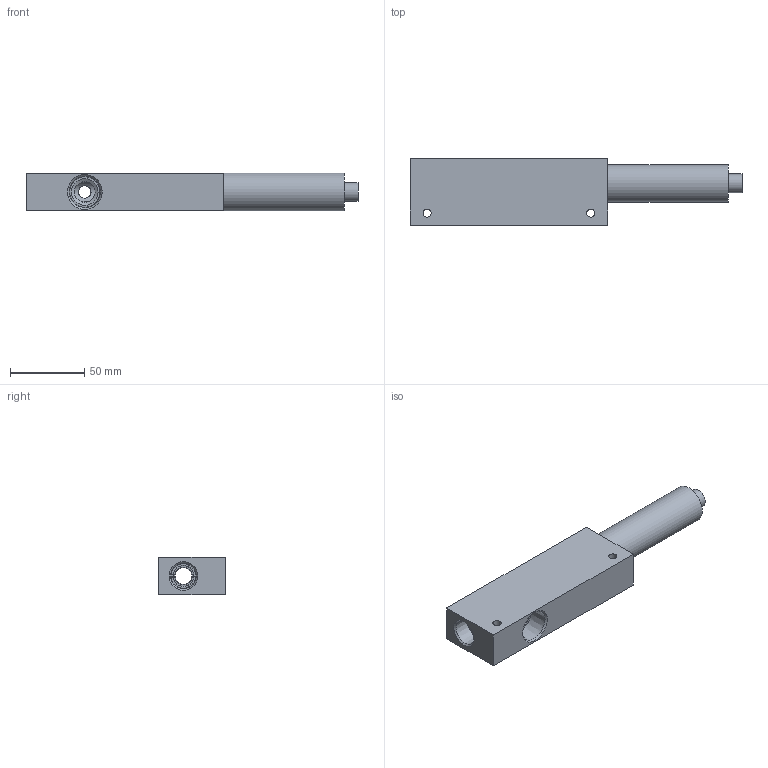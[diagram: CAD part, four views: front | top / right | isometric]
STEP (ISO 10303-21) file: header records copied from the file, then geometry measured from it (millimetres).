
FILE_DESCRIPTION (( 'STEP AP214' ), '1' );
FILE_NAME ('SSV-750-N.STEP', '2025-09-16T13:17:37', ( '' ), ( '' ), 'SwSTEP 2.0', 'SolidWorks 2025', '' );
FILE_SCHEMA (( 'AUTOMOTIVE_DESIGN' ));
Length unit declared in the file: inch
Products named in the file (3): SSV-750-N; 1025; GS-ST38
Assembly tree (2 placements, depth 2):
  SSV-750-N
    1025
    GS-ST38
Bounding box: 223.2 x 44.45 x 25.4 mm (x, y, z)
Volume: 152637.2 mm3; surface area: 40556.5 mm2
Topology: 2 solids, 2 shells, 64 faces, 126 edges, 73 vertices
Faces by surface type: cone 25, cylinder 21, plane 18
Full cylindrical faces by diameter (mm): 5.5 x2, 8.433 x1, 11 x2, 12 x1, 12.7 x2, 14 x2, 14.275 x1, 14.3 x5, 14.95 x1, 17.856 x1, 25.4 x1
Entity records: 1582 total; most frequent: CARTESIAN_POINT 310, DIRECTION 270, ORIENTED_EDGE 160, EDGE_LOOP 128, AXIS2_PLACEMENT_3D 128, FACE_OUTER_BOUND 83, EDGE_CURVE 80, VERTEX_POINT 72
